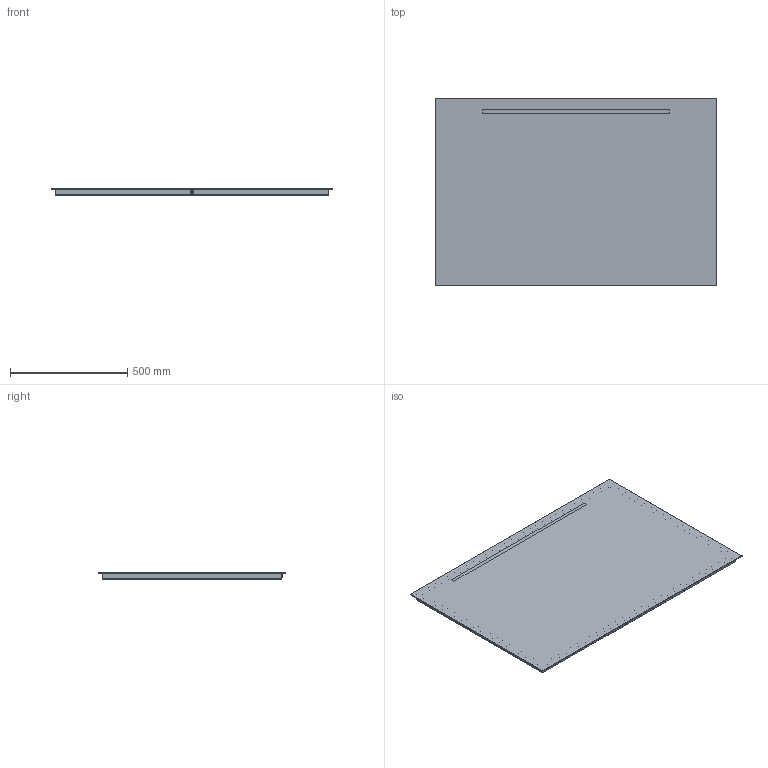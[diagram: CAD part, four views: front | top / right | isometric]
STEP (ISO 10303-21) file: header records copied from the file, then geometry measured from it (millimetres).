
FILE_DESCRIPTION (( 'STEP AP203' ), '1' );
FILE_NAME ('SPIEGEL MODEL 13 120CM.STEP', '2016-07-14T09:46:44', ( '' ), ( '' ), 'SwSTEP 2.0', 'SolidWorks 2016', '' );
FILE_SCHEMA (( 'CONFIG_CONTROL_DESIGN' ));
Length unit declared in the file: millimetre
Products named in the file (1): SPIEGEL MODEL 13 120CM
Bounding box: 1200 x 800 x 30 mm (x, y, z)
Volume: 5296024.6 mm3; surface area: 2145972.9 mm2
Topology: 2 solids, 2 shells, 69 faces, 148 edges, 90 vertices
Faces by surface type: plane 59, cylinder 8, torus 2
Entity records: 1893 total; most frequent: DIRECTION 308, CARTESIAN_POINT 308, ORIENTED_EDGE 296, EDGE_CURVE 148, VECTOR 128, LINE 128, AXIS2_PLACEMENT_3D 90, VERTEX_POINT 90
